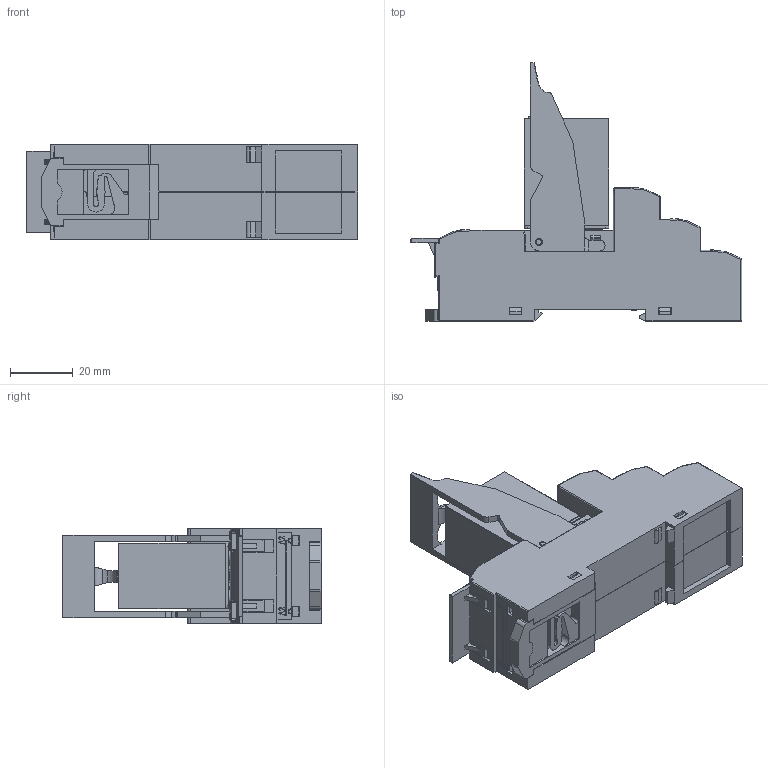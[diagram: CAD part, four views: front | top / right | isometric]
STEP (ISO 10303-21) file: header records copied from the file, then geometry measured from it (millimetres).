
FILE_DESCRIPTION (( 'STEP AP214' ), '1' );
FILE_NAME ('6. IR-4CO_IR-B4-PT_IR-RB-2_IR-MP-2.STEP', '2023-06-08T06:09:55', ( '' ), ( '' ), 'SwSTEP 2.0', 'SolidWorks 2022', '' );
FILE_SCHEMA (( 'AUTOMOTIVE_DESIGN' ));
Length unit declared in the file: millimetre
Products named in the file (5): IR-RB-2 (DKC); IR-4CO; 6. IR-4CO_IR-B4-PT_IR-RB-2_IR-MP-2; IR-MP-2 (DKC); IR-B4-PT
Assembly tree (4 placements, depth 2):
  6. IR-4CO_IR-B4-PT_IR-RB-2_IR-MP-2
    IR-B4-PT
    IR-4CO
    IR-MP-2 (DKC)
    IR-RB-2 (DKC)
Bounding box: 105.7 x 82.3 x 30.6 mm (x, y, z)
Volume: 83912.5 mm3; surface area: 66276 mm2
Topology: 6 solids, 14 shells, 6126 faces, 18190 edges, 11939 vertices
Faces by surface type: plane 4460, cylinder 1287, bspline 298, cone 81
Entity records: 215127 total; most frequent: CARTESIAN_POINT 55154, ORIENTED_EDGE 36316, DIRECTION 29609, EDGE_CURVE 18158, VECTOR 14061, LINE 14061, VERTEX_POINT 11939, AXIS2_PLACEMENT_3D 7774
